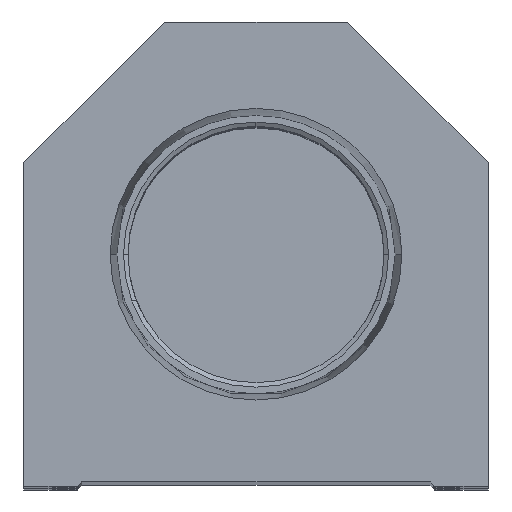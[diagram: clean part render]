
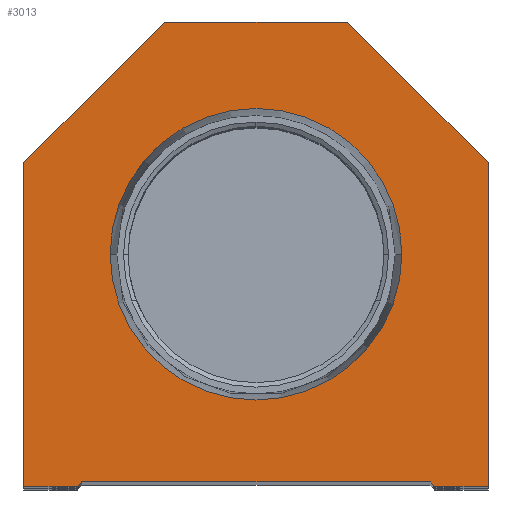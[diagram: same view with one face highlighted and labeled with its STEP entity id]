
A CAD part, top view. The second image highlights one B-rep face of the part: STEP entity #3013.
In plain terms, the highlighted planar face has unit normal (0, 0, 1).
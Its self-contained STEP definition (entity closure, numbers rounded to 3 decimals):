
#76 = CARTESIAN_POINT ( 'NONE',  ( 25.4, 0., 0. ) ) ;
#90 = AXIS2_PLACEMENT_3D ( 'NONE', #19203, #25125, #334 ) ;
#334 = DIRECTION ( 'NONE',  ( 1., 0., 0. ) ) ;
#480 = CIRCLE ( 'NONE', #19285, 15.947 ) ;
#853 = CARTESIAN_POINT ( 'NONE',  ( -9.775, 9.775, 0. ) ) ;
#892 = EDGE_CURVE ( 'NONE', #5330, #26522, #480, .T. ) ;
#937 = EDGE_LOOP ( 'NONE', ( #18374, #18655 ) ) ;
#1007 = EDGE_CURVE ( 'NONE', #5863, #16324, #23876, .T. ) ;
#1318 = ORIENTED_EDGE ( 'NONE', *, *, #15856, .T. ) ;
#1596 = LINE ( 'NONE', #20483, #26261 ) ;
#1904 = DIRECTION ( 'NONE',  ( 0., -1., 0. ) ) ;
#2185 = VECTOR ( 'NONE', #24689, 1000. ) ;
#2554 = CARTESIAN_POINT ( 'NONE',  ( -25.4, 35.4, 0. ) ) ;
#3013 = ADVANCED_FACE ( 'NONE', ( #8748, #10766 ), #14798, .T. ) ;
#3609 = CARTESIAN_POINT ( 'NONE',  ( 15.947, 25.4, 0. ) ) ;
#3966 = VECTOR ( 'NONE', #8252, 1000. ) ;
#4236 = LINE ( 'NONE', #76, #12242 ) ;
#4360 = EDGE_CURVE ( 'NONE', #16324, #7072, #14988, .T. ) ;
#4560 = CARTESIAN_POINT ( 'NONE',  ( 9.775, 9.775, 0. ) ) ;
#4871 = ORIENTED_EDGE ( 'NONE', *, *, #4360, .T. ) ;
#4890 = LINE ( 'NONE', #25128, #18290 ) ;
#5330 = VERTEX_POINT ( 'NONE', #16534 ) ;
#5496 = CARTESIAN_POINT ( 'NONE',  ( -25.4, 0., 0. ) ) ;
#5506 = ORIENTED_EDGE ( 'NONE', *, *, #8770, .T. ) ;
#5646 = ORIENTED_EDGE ( 'NONE', *, *, #20119, .T. ) ;
#5863 = VERTEX_POINT ( 'NONE', #2554 ) ;
#6135 = CARTESIAN_POINT ( 'NONE',  ( -10., 50.8, 0. ) ) ;
#6609 = CARTESIAN_POINT ( 'NONE',  ( -19.05, 0.5, 0. ) ) ;
#7072 = VERTEX_POINT ( 'NONE', #15762 ) ;
#7332 = EDGE_CURVE ( 'NONE', #16868, #14230, #22945, .T. ) ;
#7887 = VERTEX_POINT ( 'NONE', #24883 ) ;
#8252 = DIRECTION ( 'NONE',  ( 1., 0., 0. ) ) ;
#8350 = CARTESIAN_POINT ( 'NONE',  ( 25.4, 35.4, 0. ) ) ;
#8748 = FACE_BOUND ( 'NONE', #937, .T. ) ;
#8770 = EDGE_CURVE ( 'NONE', #24410, #7887, #24503, .T. ) ;
#9766 = CARTESIAN_POINT ( 'NONE',  ( 10., 50.8, 0. ) ) ;
#9871 = EDGE_CURVE ( 'NONE', #26522, #5330, #20176, .T. ) ;
#10028 = DIRECTION ( 'NONE',  ( 1., 0., 0. ) ) ;
#10705 = DIRECTION ( 'NONE',  ( 0.707, -0.707, 0. ) ) ;
#10766 = FACE_OUTER_BOUND ( 'NONE', #22154, .T. ) ;
#10837 = LINE ( 'NONE', #4560, #23967 ) ;
#10997 = CARTESIAN_POINT ( 'NONE',  ( 0., 25.4, 0. ) ) ;
#11167 = DIRECTION ( 'NONE',  ( 0.707, 0.707, 0. ) ) ;
#11363 = LINE ( 'NONE', #19397, #12743 ) ;
#11392 = DIRECTION ( 'NONE',  ( 0., 0., 1. ) ) ;
#11421 = DIRECTION ( 'NONE',  ( 1., 0., 0. ) ) ;
#12242 = VECTOR ( 'NONE', #12390, 1000. ) ;
#12390 = DIRECTION ( 'NONE',  ( 0., 1., 0. ) ) ;
#12743 = VECTOR ( 'NONE', #15384, 1000. ) ;
#12786 = DIRECTION ( 'NONE',  ( -0.707, -0.707, 0. ) ) ;
#12970 = CARTESIAN_POINT ( 'NONE',  ( 19.55, 0., 0. ) ) ;
#12998 = VERTEX_POINT ( 'NONE', #6135 ) ;
#13299 = DIRECTION ( 'NONE',  ( 0., 0., 1. ) ) ;
#14230 = VERTEX_POINT ( 'NONE', #9766 ) ;
#14294 = CARTESIAN_POINT ( 'NONE',  ( -19.05, 0.5, 0. ) ) ;
#14430 = EDGE_CURVE ( 'NONE', #14230, #12998, #11363, .T. ) ;
#14607 = DIRECTION ( 'NONE',  ( 1., 0., 0. ) ) ;
#14798 = PLANE ( 'NONE',  #90 ) ;
#14988 = LINE ( 'NONE', #16728, #19824 ) ;
#15218 = EDGE_CURVE ( 'NONE', #12998, #5863, #4890, .T. ) ;
#15384 = DIRECTION ( 'NONE',  ( -1., 0., 0. ) ) ;
#15762 = CARTESIAN_POINT ( 'NONE',  ( -19.55, 0., 0. ) ) ;
#15856 = EDGE_CURVE ( 'NONE', #25573, #16868, #4236, .T. ) ;
#16324 = VERTEX_POINT ( 'NONE', #26164 ) ;
#16534 = CARTESIAN_POINT ( 'NONE',  ( -15.947, 25.4, 0. ) ) ;
#16728 = CARTESIAN_POINT ( 'NONE',  ( -19.05, 0., 0. ) ) ;
#16868 = VERTEX_POINT ( 'NONE', #8350 ) ;
#17169 = AXIS2_PLACEMENT_3D ( 'NONE', #19197, #13299, #11421 ) ;
#18290 = VECTOR ( 'NONE', #12786, 1000. ) ;
#18374 = ORIENTED_EDGE ( 'NONE', *, *, #9871, .F. ) ;
#18655 = ORIENTED_EDGE ( 'NONE', *, *, #892, .F. ) ;
#18801 = ORIENTED_EDGE ( 'NONE', *, *, #14430, .T. ) ;
#19197 = CARTESIAN_POINT ( 'NONE',  ( 0., 25.4, 0. ) ) ;
#19203 = CARTESIAN_POINT ( 'NONE',  ( 0., 0., 0. ) ) ;
#19285 = AXIS2_PLACEMENT_3D ( 'NONE', #10997, #11392, #19548 ) ;
#19397 = CARTESIAN_POINT ( 'NONE',  ( 10., 50.8, 0. ) ) ;
#19548 = DIRECTION ( 'NONE',  ( 1., 0., 0. ) ) ;
#19824 = VECTOR ( 'NONE', #14607, 1000. ) ;
#20033 = VECTOR ( 'NONE', #11167, 1000. ) ;
#20119 = EDGE_CURVE ( 'NONE', #7072, #24410, #20969, .T. ) ;
#20176 = CIRCLE ( 'NONE', #17169, 15.947 ) ;
#20483 = CARTESIAN_POINT ( 'NONE',  ( 19.05, 0., 0. ) ) ;
#20969 = LINE ( 'NONE', #853, #20033 ) ;
#21412 = EDGE_CURVE ( 'NONE', #7887, #23731, #10837, .T. ) ;
#22154 = EDGE_LOOP ( 'NONE', ( #4871, #5646, #5506, #22451, #25410, #1318, #26420, #18801, #22784, #25150 ) ) ;
#22451 = ORIENTED_EDGE ( 'NONE', *, *, #21412, .T. ) ;
#22784 = ORIENTED_EDGE ( 'NONE', *, *, #15218, .T. ) ;
#22945 = LINE ( 'NONE', #25211, #2185 ) ;
#23731 = VERTEX_POINT ( 'NONE', #12970 ) ;
#23807 = VECTOR ( 'NONE', #1904, 1000. ) ;
#23876 = LINE ( 'NONE', #5496, #23807 ) ;
#23967 = VECTOR ( 'NONE', #10705, 1000. ) ;
#24410 = VERTEX_POINT ( 'NONE', #6609 ) ;
#24503 = LINE ( 'NONE', #14294, #3966 ) ;
#24689 = DIRECTION ( 'NONE',  ( -0.707, 0.707, 0. ) ) ;
#24883 = CARTESIAN_POINT ( 'NONE',  ( 19.05, 0.5, 0. ) ) ;
#25125 = DIRECTION ( 'NONE',  ( 0., 0., 1. ) ) ;
#25128 = CARTESIAN_POINT ( 'NONE',  ( -25.4, 35.4, 0. ) ) ;
#25150 = ORIENTED_EDGE ( 'NONE', *, *, #1007, .T. ) ;
#25211 = CARTESIAN_POINT ( 'NONE',  ( 25.4, 35.4, 0. ) ) ;
#25410 = ORIENTED_EDGE ( 'NONE', *, *, #25535, .T. ) ;
#25535 = EDGE_CURVE ( 'NONE', #23731, #25573, #1596, .T. ) ;
#25573 = VERTEX_POINT ( 'NONE', #26133 ) ;
#26133 = CARTESIAN_POINT ( 'NONE',  ( 25.4, 0., 0. ) ) ;
#26164 = CARTESIAN_POINT ( 'NONE',  ( -25.4, 0., 0. ) ) ;
#26261 = VECTOR ( 'NONE', #10028, 1000. ) ;
#26420 = ORIENTED_EDGE ( 'NONE', *, *, #7332, .T. ) ;
#26522 = VERTEX_POINT ( 'NONE', #3609 ) ;
